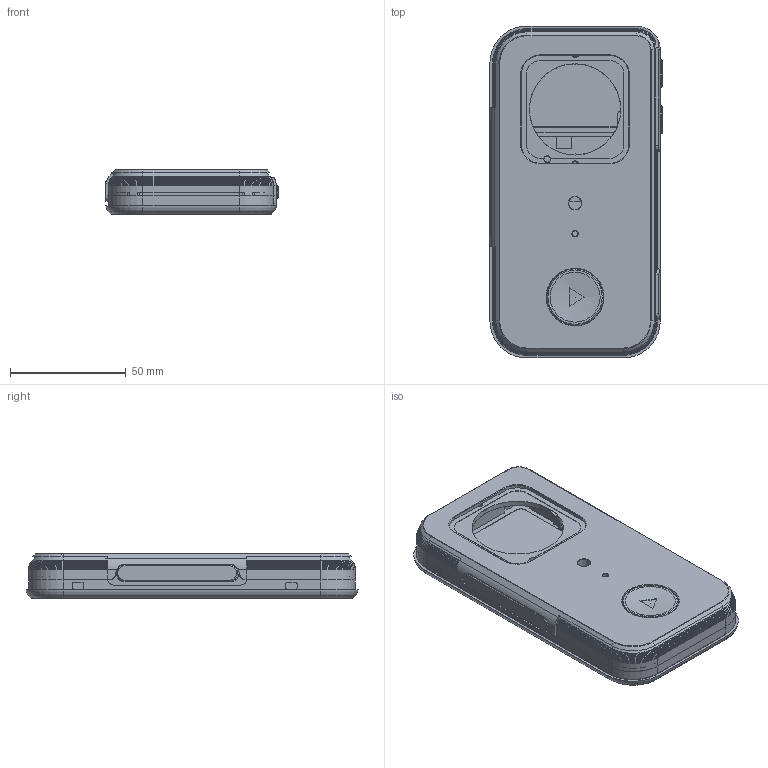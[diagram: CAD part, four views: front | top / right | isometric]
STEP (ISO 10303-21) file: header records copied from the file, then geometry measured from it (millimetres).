
FILE_DESCRIPTION(('Open CASCADE Model'),'2;1');
FILE_NAME('WalkieOne-v30-Polished-R1 Rigid-Fabrication-Only', '2026-09-21T22:33:29',('Author'),('Open CASCADE'), 'Open CASCADE STEP processor 7.9','build123d','Unknown');
FILE_SCHEMA(('AUTOMOTIVE_DESIGN { 1 0 10303 214 1 1 1 1 }'));
Length unit declared in the file: millimetre
Products named in the file (29): WalkieOne-v30-Polished-R1 Rigid-Fabrication-Only; MicLED; LED_retainer; PTT; PTT_Link_1; PTT_Link_2; PTT_Pivot_sleeve_fixed_1; PTT_Pivot_sleeve_fixed_2; PTT_Pivot_sleeve_moving_1; PTT_Pivot_sleeve_moving_2; PTT_cap; PTT_switch_retainer; PTT_switch_seat; Play; Play_cap; Play_carrier; Play_retainer; Speaker; Speaker_spacers_reference; USB; USB_collar; Volume; Volume_down_cap; Volume_guide_frame; Volume_rear_seat; Volume_up_cap; Enclosure; Back; Front
Assembly tree (28 placements, depth 3):
  WalkieOne-v30-Polished-R1 Rigid-Fabrication-Only
    MicLED
      LED_retainer
    PTT
      PTT_Link_1
      PTT_Link_2
      PTT_Pivot_sleeve_fixed_1
      PTT_Pivot_sleeve_fixed_2
      PTT_Pivot_sleeve_moving_1
      PTT_Pivot_sleeve_moving_2
      PTT_cap
      PTT_switch_retainer
      PTT_switch_seat
    Play
      Play_cap
      Play_carrier
      Play_retainer
    Speaker
      Speaker_spacers_reference
    USB
      USB_collar
    Volume
      Volume_down_cap
      Volume_guide_frame
      Volume_rear_seat
      Volume_up_cap
    Enclosure
      Back
      Front
Bounding box: 74.3 x 143.24 x 19.4 mm (x, y, z)
Volume: 65312.3 mm3; surface area: 72079.6 mm2
Topology: 22 solids, 22 shells, 2535 faces, 7150 edges, 4668 vertices
Faces by surface type: plane 1658, cylinder 509, cone 183, sphere 110, torus 61, bspline 13, revolution 1
Full cylindrical faces by diameter (mm): 0.6 x6, 0.84 x6, 2.2 x2, 2.3 x14, 2.4 x13, 2.5 x4, 2.6 x6, 2.8 x2, 2.9 x24, 3.6 x1, 4 x5, 4.1 x4, 4.4 x4, 5 x2, 5.5 x1, 5.6 x1, 6.4 x5, 6.5 x1, 6.6 x4, 7.2 x6, 8 x2, 9.4 x1, 12 x1, 18 x1, 19 x1, 19.4 x1, 21.8 x1, 24 x1, 24.5 x1, 31 x1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
Entity records: 86480 total; most frequent: CARTESIAN_POINT 19011, ORIENTED_EDGE 14222, DIRECTION 13727, EDGE_CURVE 7111, VERTEX_POINT 4668, AXIS2_PLACEMENT_3D 4592, LINE 4542, VECTOR 4542
